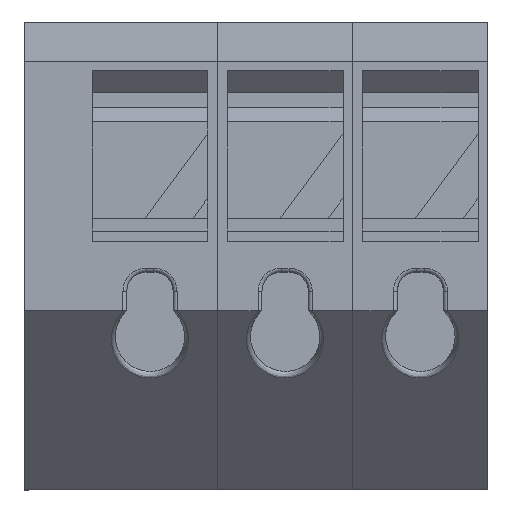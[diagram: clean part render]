
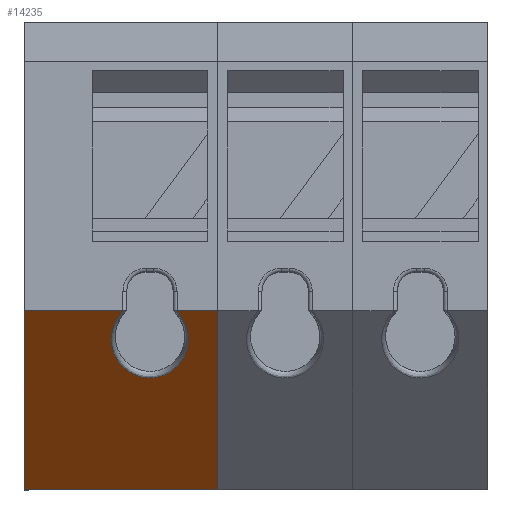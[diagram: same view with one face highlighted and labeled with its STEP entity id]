
A CAD part, top view. The second image highlights one B-rep face of the part: STEP entity #14235.
In plain terms, the highlighted planar face has unit normal (0, -0.707, 0.707).
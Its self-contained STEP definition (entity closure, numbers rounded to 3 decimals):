
#32 = DIRECTION ( 'NONE',  ( 0., -0.707, -0.707 ) ) ;
#212 = ORIENTED_EDGE ( 'NONE', *, *, #2911, .T. ) ;
#256 = CARTESIAN_POINT ( 'NONE',  ( -8.4, -2.912, 5.315 ) ) ;
#660 = VERTEX_POINT ( 'NONE', #3593 ) ;
#774 = DIRECTION ( 'NONE',  ( 1., 0., 0. ) ) ;
#919 = CARTESIAN_POINT ( 'NONE',  ( -7.325, -0.444, 7.783 ) ) ;
#1223 = ORIENTED_EDGE ( 'NONE', *, *, #18343, .F. ) ;
#1378 = CARTESIAN_POINT ( 'NONE',  ( -8.4, -5.065, 3.162 ) ) ;
#1575 =( BOUNDED_CURVE ( )  B_SPLINE_CURVE ( 3, ( #5250, #3215, #8899, #9126 ),
 .UNSPECIFIED., .F., .T. ) 
 B_SPLINE_CURVE_WITH_KNOTS ( ( 4, 4 ),
 ( 3.142, 3.399 ),
 .UNSPECIFIED. ) 
 CURVE ( )  GEOMETRIC_REPRESENTATION_ITEM ( )  RATIONAL_B_SPLINE_CURVE ( ( 1., 0.994, 0.994, 1. ) ) 
 REPRESENTATION_ITEM ( '' )  );
#1733 = CARTESIAN_POINT ( 'NONE',  ( -7.325, -0.444, 7.783 ) ) ;
#2241 = VERTEX_POINT ( 'NONE', #14560 ) ;
#2279 = CARTESIAN_POINT ( 'NONE',  ( -5.975, -0.444, 7.783 ) ) ;
#2911 = EDGE_CURVE ( 'NONE', #21395, #660, #1575, .T. ) ;
#3215 = CARTESIAN_POINT ( 'NONE',  ( -5.959, -0.44, 7.787 ) ) ;
#3309 = CARTESIAN_POINT ( 'NONE',  ( -9.9, -5.065, 3.162 ) ) ;
#3374 =( BOUNDED_CURVE ( )  B_SPLINE_CURVE ( 3, ( #919, #15600, #17529, #20863 ),
 .UNSPECIFIED., .F., .F. ) 
 B_SPLINE_CURVE_WITH_KNOTS ( ( 4, 4 ),
 ( 6.026, 6.283 ),
 .UNSPECIFIED. ) 
 CURVE ( )  GEOMETRIC_REPRESENTATION_ITEM ( )  RATIONAL_B_SPLINE_CURVE ( ( 1., 0.994, 0.994, 1. ) ) 
 REPRESENTATION_ITEM ( '' )  );
#3593 = CARTESIAN_POINT ( 'NONE',  ( -5.975, -0.444, 7.783 ) ) ;
#3811 = ORIENTED_EDGE ( 'NONE', *, *, #10011, .F. ) ;
#4088 = FACE_OUTER_BOUND ( 'NONE', #15594, .T. ) ;
#4601 = CARTESIAN_POINT ( 'NONE',  ( -7.35, -0.44, 7.787 ) ) ;
#5088 = LINE ( 'NONE', #1378, #11272 ) ;
#5250 = CARTESIAN_POINT ( 'NONE',  ( -5.95, -0.44, 7.787 ) ) ;
#5395 = VERTEX_POINT ( 'NONE', #18414 ) ;
#5831 =( BOUNDED_CURVE ( )  B_SPLINE_CURVE ( 3, ( #2279, #20566, #7934, #17105, #11799, #5879, #13318 ),
 .UNSPECIFIED., .F., .T. ) 
 B_SPLINE_CURVE_WITH_KNOTS ( ( 4, 3, 4 ),
 ( 0.74, 3.142, 5.543 ),
 .UNSPECIFIED. ) 
 CURVE ( )  GEOMETRIC_REPRESENTATION_ITEM ( )  RATIONAL_B_SPLINE_CURVE ( ( 1., 0.575, 0.575, 1., 0.575, 0.575, 1. ) ) 
 REPRESENTATION_ITEM ( '' )  );
#5879 = CARTESIAN_POINT ( 'NONE',  ( -8.123, -1.173, 7.054 ) ) ;
#6005 = EDGE_CURVE ( 'NONE', #16116, #2241, #5088, .T. ) ;
#6035 = VERTEX_POINT ( 'NONE', #1733 ) ;
#6171 = LINE ( 'NONE', #15579, #22322 ) ;
#6557 = VERTEX_POINT ( 'NONE', #4601 ) ;
#7934 = CARTESIAN_POINT ( 'NONE',  ( -5.568, -2.182, 6.045 ) ) ;
#7942 = ORIENTED_EDGE ( 'NONE', *, *, #17250, .T. ) ;
#8119 = ORIENTED_EDGE ( 'NONE', *, *, #6005, .T. ) ;
#8458 = ORIENTED_EDGE ( 'NONE', *, *, #11113, .T. ) ;
#8899 = CARTESIAN_POINT ( 'NONE',  ( -5.967, -0.441, 7.786 ) ) ;
#9126 = CARTESIAN_POINT ( 'NONE',  ( -5.975, -0.444, 7.783 ) ) ;
#10011 = EDGE_CURVE ( 'NONE', #21395, #5395, #6171, .T. ) ;
#10084 = CARTESIAN_POINT ( 'NONE',  ( -4.9, -2.912, 5.315 ) ) ;
#10124 = EDGE_CURVE ( 'NONE', #10745, #16116, #17873, .T. ) ;
#10224 = EDGE_CURVE ( 'NONE', #10745, #6557, #14458, .T. ) ;
#10745 = VERTEX_POINT ( 'NONE', #23519 ) ;
#10890 = DIRECTION ( 'NONE',  ( 1., 0., 0. ) ) ;
#10996 = CARTESIAN_POINT ( 'NONE',  ( -9.9, -0.44, 7.787 ) ) ;
#11113 = EDGE_CURVE ( 'NONE', #660, #6035, #5831, .T. ) ;
#11272 = VECTOR ( 'NONE', #10890, 1000. ) ;
#11445 = PLANE ( 'NONE',  #14834 ) ;
#11799 = CARTESIAN_POINT ( 'NONE',  ( -7.732, -2.182, 6.045 ) ) ;
#13318 = CARTESIAN_POINT ( 'NONE',  ( -7.325, -0.444, 7.783 ) ) ;
#13671 = LINE ( 'NONE', #10084, #20302 ) ;
#14235 = ADVANCED_FACE ( 'NONE', ( #4088 ), #11445, .T. ) ;
#14458 = LINE ( 'NONE', #14808, #18879 ) ;
#14560 = CARTESIAN_POINT ( 'NONE',  ( -4.9, -5.065, 3.162 ) ) ;
#14808 = CARTESIAN_POINT ( 'NONE',  ( -8.4, -0.44, 7.787 ) ) ;
#14834 = AXIS2_PLACEMENT_3D ( 'NONE', #256, #18795, #20686 ) ;
#15579 = CARTESIAN_POINT ( 'NONE',  ( -8.4, -0.44, 7.787 ) ) ;
#15594 = EDGE_LOOP ( 'NONE', ( #3811, #212, #8458, #7942, #22829, #23587, #8119, #1223 ) ) ;
#15600 = CARTESIAN_POINT ( 'NONE',  ( -7.333, -0.441, 7.786 ) ) ;
#16116 = VERTEX_POINT ( 'NONE', #3309 ) ;
#17105 = CARTESIAN_POINT ( 'NONE',  ( -6.65, -2.182, 6.045 ) ) ;
#17250 = EDGE_CURVE ( 'NONE', #6035, #6557, #3374, .T. ) ;
#17359 = VECTOR ( 'NONE', #32, 1000. ) ;
#17529 = CARTESIAN_POINT ( 'NONE',  ( -7.341, -0.44, 7.787 ) ) ;
#17873 = LINE ( 'NONE', #10996, #17359 ) ;
#18343 = EDGE_CURVE ( 'NONE', #5395, #2241, #13671, .T. ) ;
#18414 = CARTESIAN_POINT ( 'NONE',  ( -4.9, -0.44, 7.787 ) ) ;
#18795 = DIRECTION ( 'NONE',  ( 0., -0.707, 0.707 ) ) ;
#18879 = VECTOR ( 'NONE', #22069, 1000. ) ;
#20302 = VECTOR ( 'NONE', #20656, 1000. ) ;
#20566 = CARTESIAN_POINT ( 'NONE',  ( -5.177, -1.173, 7.054 ) ) ;
#20656 = DIRECTION ( 'NONE',  ( 0., -0.707, -0.707 ) ) ;
#20686 = DIRECTION ( 'NONE',  ( 0., 0.707, 0.707 ) ) ;
#20863 = CARTESIAN_POINT ( 'NONE',  ( -7.35, -0.44, 7.787 ) ) ;
#21395 = VERTEX_POINT ( 'NONE', #22538 ) ;
#22069 = DIRECTION ( 'NONE',  ( 1., 0., 0. ) ) ;
#22322 = VECTOR ( 'NONE', #774, 1000. ) ;
#22538 = CARTESIAN_POINT ( 'NONE',  ( -5.95, -0.44, 7.787 ) ) ;
#22829 = ORIENTED_EDGE ( 'NONE', *, *, #10224, .F. ) ;
#23519 = CARTESIAN_POINT ( 'NONE',  ( -9.9, -0.44, 7.787 ) ) ;
#23587 = ORIENTED_EDGE ( 'NONE', *, *, #10124, .T. ) ;
